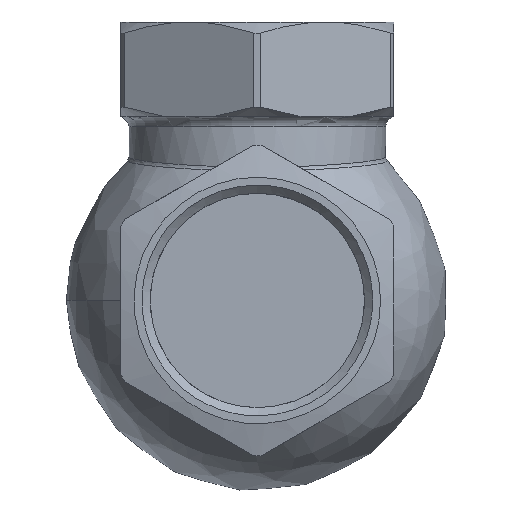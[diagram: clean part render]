
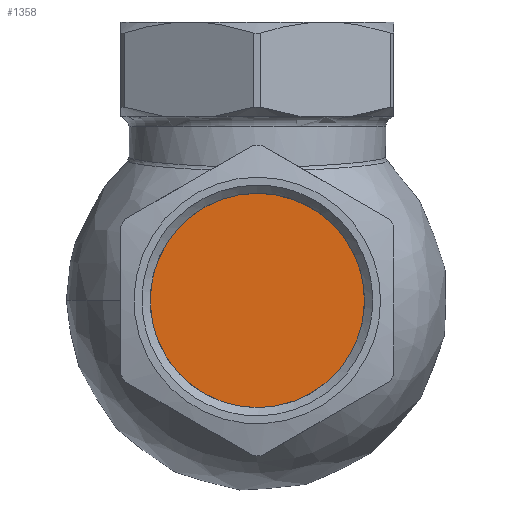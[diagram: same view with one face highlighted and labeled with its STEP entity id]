
A CAD part, front view. The second image highlights one B-rep face of the part: STEP entity #1358.
In plain terms, the highlighted planar face has unit normal (0, -1, 0).
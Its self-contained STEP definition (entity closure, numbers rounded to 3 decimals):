
#334=FACE_OUTER_BOUND('',#435,.T.);
#435=EDGE_LOOP('',(#1189));
#555=CIRCLE('',#1504,19.635);
#678=VERTEX_POINT('',#4197);
#862=EDGE_CURVE('',#678,#678,#555,.T.);
#1189=ORIENTED_EDGE('',*,*,#862,.T.);
#1285=PLANE('',#1503);
#1358=ADVANCED_FACE('',(#334),#1285,.T.);
#1503=AXIS2_PLACEMENT_3D('',#4196,#1807,#1808);
#1504=AXIS2_PLACEMENT_3D('',#4198,#1809,#1810);
#1807=DIRECTION('center_axis',(0.,-1.,0.));
#1808=DIRECTION('ref_axis',(0.,0.,1.));
#1809=DIRECTION('center_axis',(0.,-1.,0.));
#1810=DIRECTION('ref_axis',(0.,0.,1.));
#4196=CARTESIAN_POINT('Origin',(-276.608,1841.544,-23.562));
#4197=CARTESIAN_POINT('',(-300.17,1841.544,-19.635));
#4198=CARTESIAN_POINT('Origin',(-300.17,1841.544,0.));
